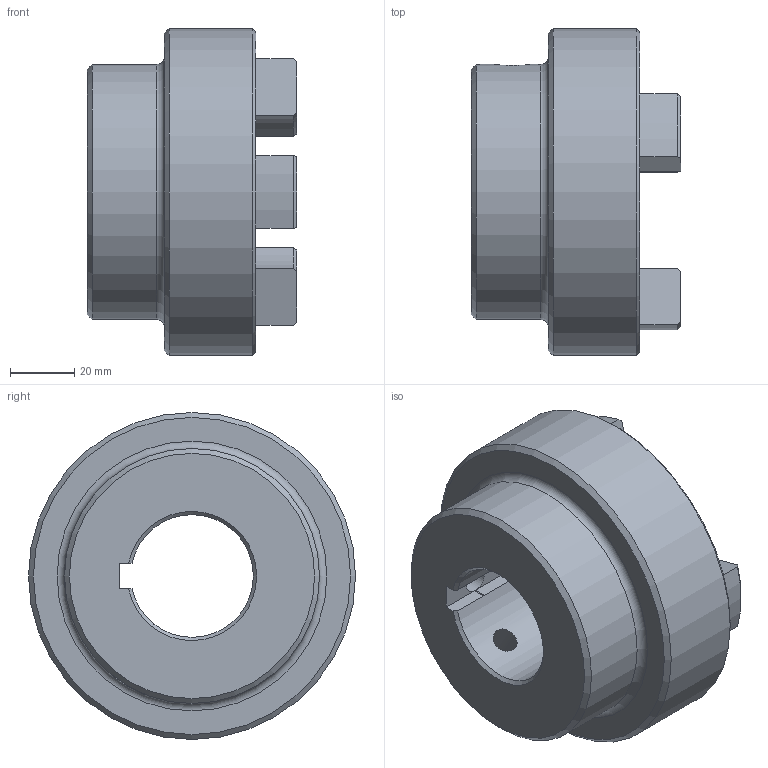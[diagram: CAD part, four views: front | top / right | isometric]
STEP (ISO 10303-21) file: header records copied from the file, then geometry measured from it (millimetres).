
FILE_DESCRIPTION (( 'STEP AP203' ), '1' );
FILE_NAME ('RC4.step', '2024-07-24T17:43:48', ( 'Adlan' ), ( '' ), 'SwSTEP 2.0', 'SolidWorks 2013', '' );
FILE_SCHEMA (( 'CONFIG_CONTROL_DESIGN' ));
Length unit declared in the file: inch
Products named in the file (1): RC4
Bounding box: 65.02 x 101.6 x 101.6 mm (x, y, z)
Volume: 234416.3 mm3; surface area: 41434 mm2
Topology: 1 solids, 1 shells, 70 faces, 180 edges, 113 vertices
Faces by surface type: cylinder 26, plane 19, torus 13, cone 12
Full cylindrical faces by diameter (mm): 7.937 x2, 79.248 x1, 101.6 x1
Entity records: 2393 total; most frequent: CARTESIAN_POINT 629, DIRECTION 370, ORIENTED_EDGE 332, EDGE_CURVE 166, AXIS2_PLACEMENT_3D 146, VERTEX_POINT 109, EDGE_LOOP 87, LINE 78
